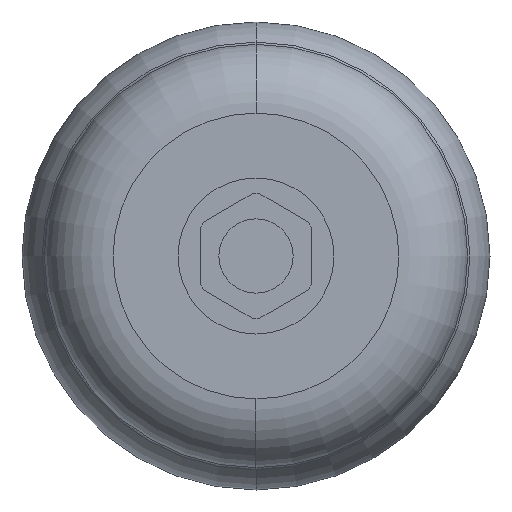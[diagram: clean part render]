
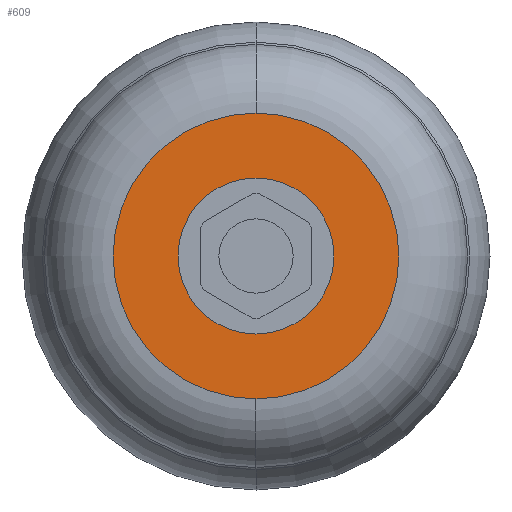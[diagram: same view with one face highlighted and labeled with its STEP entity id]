
A CAD part, front view. The second image highlights one B-rep face of the part: STEP entity #609.
In plain terms, the highlighted planar face has unit normal (0, -1, 0).
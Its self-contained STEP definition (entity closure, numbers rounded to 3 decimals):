
#116 = VERTEX_POINT ( 'NONE', #428 ) ;
#141 = AXIS2_PLACEMENT_3D ( 'NONE', #886, #882, #878 ) ;
#172 = DIRECTION ( 'NONE',  ( 0., 1., 0. ) ) ;
#263 = CARTESIAN_POINT ( 'NONE',  ( -30.102, 94.652, 38.477 ) ) ;
#273 = VERTEX_POINT ( 'NONE', #263 ) ;
#305 = CARTESIAN_POINT ( 'NONE',  ( -30.102, 94.652, -21. ) ) ;
#328 = AXIS2_PLACEMENT_3D ( 'NONE', #1229, #1167, #1013 ) ;
#379 = VERTEX_POINT ( 'NONE', #305 ) ;
#428 = CARTESIAN_POINT ( 'NONE',  ( -30.102, 94.652, 21. ) ) ;
#452 = DIRECTION ( 'NONE',  ( 0., 0., -1. ) ) ;
#453 = FACE_BOUND ( 'NONE', #1357, .T. ) ;
#460 = DIRECTION ( 'NONE',  ( 0., -1., 0. ) ) ;
#463 = CARTESIAN_POINT ( 'NONE',  ( -30.102, 94.652, 0. ) ) ;
#531 = AXIS2_PLACEMENT_3D ( 'NONE', #1236, #172, #1142 ) ;
#609 = ADVANCED_FACE ( 'NONE', ( #1669, #453 ), #790, .F. ) ;
#673 = CIRCLE ( 'NONE', #531, 38.477 ) ;
#720 = CIRCLE ( 'NONE', #141, 21. ) ;
#736 = DIRECTION ( 'NONE',  ( 0., 1., 0. ) ) ;
#771 = CARTESIAN_POINT ( 'NONE',  ( -49.34, 94.652, 0. ) ) ;
#790 = PLANE ( 'NONE',  #911 ) ;
#807 = DIRECTION ( 'NONE',  ( 0., 0., 1. ) ) ;
#878 = DIRECTION ( 'NONE',  ( 0., 0., -1. ) ) ;
#882 = DIRECTION ( 'NONE',  ( 0., -1., 0. ) ) ;
#886 = CARTESIAN_POINT ( 'NONE',  ( -30.102, 94.652, 0. ) ) ;
#899 = CIRCLE ( 'NONE', #328, 38.477 ) ;
#911 = AXIS2_PLACEMENT_3D ( 'NONE', #771, #736, #807 ) ;
#930 = ORIENTED_EDGE ( 'NONE', *, *, #1000, .F. ) ;
#1000 = EDGE_CURVE ( 'NONE', #116, #379, #1322, .T. ) ;
#1013 = DIRECTION ( 'NONE',  ( 0., 0., -1. ) ) ;
#1057 = ORIENTED_EDGE ( 'NONE', *, *, #1103, .F. ) ;
#1103 = EDGE_CURVE ( 'NONE', #273, #1172, #673, .T. ) ;
#1142 = DIRECTION ( 'NONE',  ( 0., 0., -1. ) ) ;
#1167 = DIRECTION ( 'NONE',  ( 0., 1., 0. ) ) ;
#1172 = VERTEX_POINT ( 'NONE', #1534 ) ;
#1185 = ORIENTED_EDGE ( 'NONE', *, *, #1305, .F. ) ;
#1212 = ORIENTED_EDGE ( 'NONE', *, *, #1474, .F. ) ;
#1229 = CARTESIAN_POINT ( 'NONE',  ( -30.102, 94.652, 0. ) ) ;
#1236 = CARTESIAN_POINT ( 'NONE',  ( -30.102, 94.652, 0. ) ) ;
#1305 = EDGE_CURVE ( 'NONE', #1172, #273, #899, .T. ) ;
#1322 = CIRCLE ( 'NONE', #1525, 21. ) ;
#1330 = EDGE_LOOP ( 'NONE', ( #1185, #1057 ) ) ;
#1357 = EDGE_LOOP ( 'NONE', ( #1212, #930 ) ) ;
#1474 = EDGE_CURVE ( 'NONE', #379, #116, #720, .T. ) ;
#1525 = AXIS2_PLACEMENT_3D ( 'NONE', #463, #460, #452 ) ;
#1534 = CARTESIAN_POINT ( 'NONE',  ( -30.102, 94.652, -38.477 ) ) ;
#1669 = FACE_OUTER_BOUND ( 'NONE', #1330, .T. ) ;
